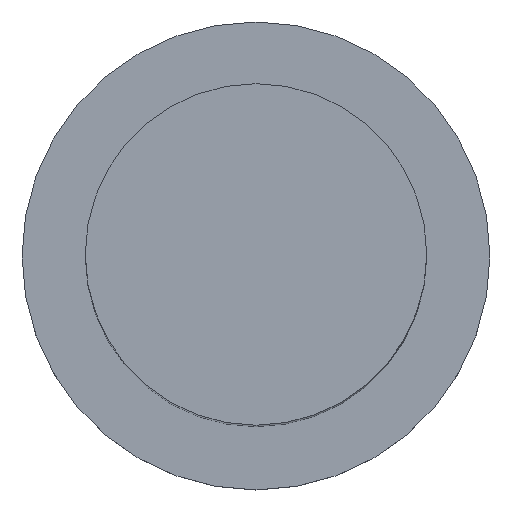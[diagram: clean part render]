
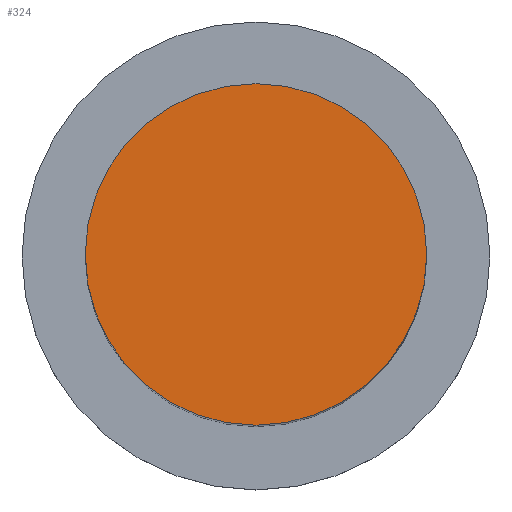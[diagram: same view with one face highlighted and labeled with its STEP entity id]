
A CAD part, top view. The second image highlights one B-rep face of the part: STEP entity #324.
In plain terms, the highlighted planar face has unit normal (0, 0, 1).
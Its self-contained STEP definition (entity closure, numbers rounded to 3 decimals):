
#164 = CYLINDRICAL_SURFACE('',#165,2.7);
#165 = AXIS2_PLACEMENT_3D('',#166,#167,#168);
#166 = CARTESIAN_POINT('',(48.,4.,10.6));
#167 = DIRECTION('',(-0.,-0.,-1.));
#168 = DIRECTION('',(1.,0.,0.));
#235 = VERTEX_POINT('',#236);
#236 = CARTESIAN_POINT('',(50.7,4.,24.2));
#257 = EDGE_CURVE('',#235,#235,#258,.T.);
#258 = SURFACE_CURVE('',#259,(#264,#271),.PCURVE_S1.);
#259 = CIRCLE('',#260,2.7);
#260 = AXIS2_PLACEMENT_3D('',#261,#262,#263);
#261 = CARTESIAN_POINT('',(48.,4.,24.2));
#262 = DIRECTION('',(0.,0.,1.));
#263 = DIRECTION('',(1.,0.,0.));
#264 = PCURVE('',#164,#265);
#265 = DEFINITIONAL_REPRESENTATION('',(#266),#270);
#266 = LINE('',#267,#268);
#267 = CARTESIAN_POINT('',(-0.,-13.6));
#268 = VECTOR('',#269,1.);
#269 = DIRECTION('',(-1.,0.));
#270 = ( GEOMETRIC_REPRESENTATION_CONTEXT(2) 
PARAMETRIC_REPRESENTATION_CONTEXT() REPRESENTATION_CONTEXT('2D SPACE',''
  ) );
#271 = PCURVE('',#272,#277);
#272 = PLANE('',#273);
#273 = AXIS2_PLACEMENT_3D('',#274,#275,#276);
#274 = CARTESIAN_POINT('',(48.,4.,24.2));
#275 = DIRECTION('',(0.,0.,1.));
#276 = DIRECTION('',(1.,0.,-0.));
#277 = DEFINITIONAL_REPRESENTATION('',(#278),#282);
#278 = CIRCLE('',#279,2.7);
#279 = AXIS2_PLACEMENT_2D('',#280,#281);
#280 = CARTESIAN_POINT('',(0.,0.));
#281 = DIRECTION('',(1.,0.));
#282 = ( GEOMETRIC_REPRESENTATION_CONTEXT(2) 
PARAMETRIC_REPRESENTATION_CONTEXT() REPRESENTATION_CONTEXT('2D SPACE',''
  ) );
#324 = ADVANCED_FACE('',(#325),#272,.T.);
#325 = FACE_BOUND('',#326,.T.);
#326 = EDGE_LOOP('',(#327));
#327 = ORIENTED_EDGE('',*,*,#257,.T.);
